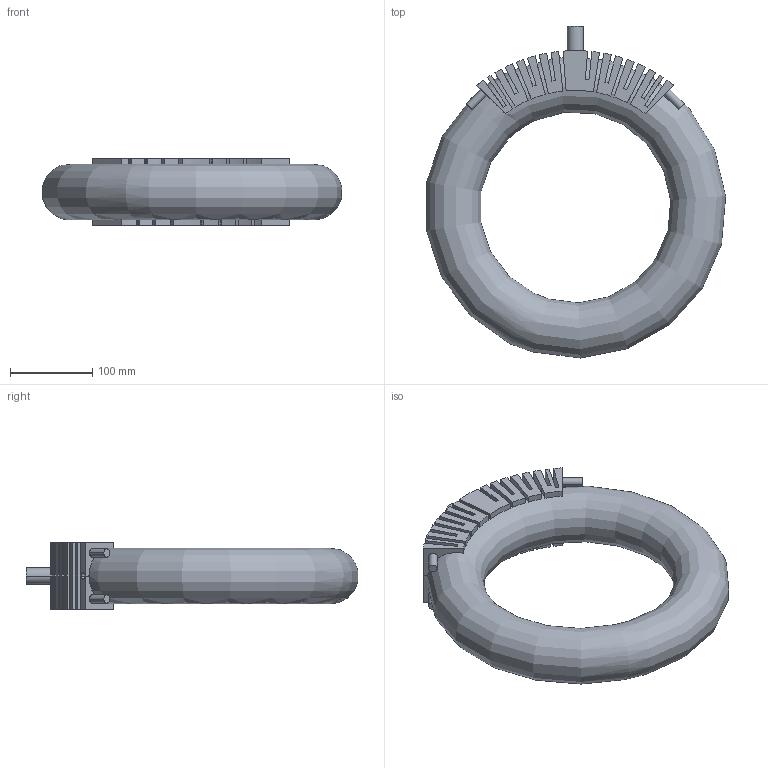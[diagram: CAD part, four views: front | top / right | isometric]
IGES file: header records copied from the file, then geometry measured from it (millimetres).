
Start section: IMSI TurboCAD v14.0
Global section: author: NULL; organization: NULL; date: 20250711.180650; units: millimetre
Bounding box: 364.04 x 403.78 x 81 mm (x, y, z)
Surface area: 306715.6 mm2 (no closed solid volume)
Topology: 0 solids, 0 shells, 164 faces, 978 edges, 979 vertices
Faces by surface type: extrusion 83, revolution 81
